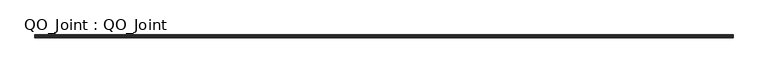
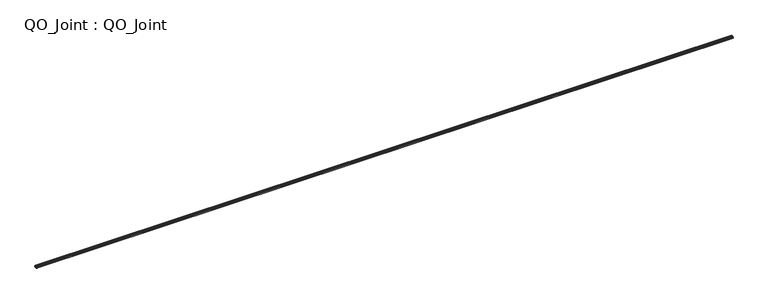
"""IFC4 building model written with IfcOpenShell, lengths in millimetres: beam geometry, QO_Joint : QO_Joint."""

from ifc_helpers import new_model, si_unit, point, frame, frame_2d, origin, place, context, project, spatial, polyline, circle_curve, trimmed, segment, composite_curve, outline, extrude, source, transform, mapped, element, save


def qo_joint_qo_joint_747832e5(model_context):
    return source(origin(), model_context, "Body", "SweptSolid", [
        extrude(outline(composite_curve([segment(polyline([(0.6475876, 34.6160805), (0.6475876, 25.5027713), (8.3158634, 25.5027713), (9.8478388, 24.5783623)]), True, "CONTINUOUS"), segment(trimmed(circle_curve(frame_2d((9.6876801, 24.3129396)), 0.31), [point((9.8478388, 24.5783623))], [point((9.6876801, 24.0029396))], False, "CARTESIAN"), True, "CONTINUOUS"), segment(polyline([(9.6876801, 24.0029396), (-9.6923428, 24.0029396)]), True, "CONTINUOUS"), segment(trimmed(circle_curve(frame_2d((-9.6923428, 24.3129396)), 0.31), [point((-9.6923428, 24.0029396))], [point((-9.8525015, 24.5783623))], False, "CARTESIAN"), True, "CONTINUOUS"), segment(polyline([(-9.8525015, 24.5783623), (-8.3205261, 25.5027713), (-0.6524124, 25.5027713), (-0.6524124, 34.6160805), (-2.1674381, 34.6160805), (-0.3546092, 35.9759407), (-0.3546092, 36.7759407), (-2.3561345, 36.7759407), (-2.3561345, 34.317153), (-1.2879019, 34.317153), (-1.2879019, 26.5392087)]), True, "CONTINUOUS"), segment(trimmed(circle_curve(frame_2d((-1.7872786, 26.5150144)), 0.4999625), [point((-1.2879019, 26.5392087))], [point((-1.7872786, 26.0150519))], False, "CARTESIAN"), True, "CONTINUOUS"), segment(polyline([(-1.7872786, 26.0150519), (-12.5010847, 26.0150519), (-12.5010847, 36.190378)]), True, "CONTINUOUS"), segment(trimmed(circle_curve(frame_2d((-11.9010847, 36.190378)), 0.6), [point((-12.5010847, 36.190378))], [point((-11.9010847, 36.790378))], False, "CARTESIAN"), True, "CONTINUOUS"), segment(polyline([(-11.9010847, 36.790378), (-6.362561, 36.790378), (-6.362561, 39.6058207), (-8.961162, 39.6058207), (-7.4224126, 43.8493822), (-4.3991903, 40.3004498), (4.3943655, 40.3004498), (7.4175879, 43.8493822), (8.9563372, 39.6058207), (6.3577362, 39.6058207), (6.3577362, 36.790378), (11.8962599, 36.790378)]), True, "CONTINUOUS"), segment(trimmed(circle_curve(frame_2d((11.8962599, 36.190378)), 0.6), [point((11.8962599, 36.790378))], [point((12.4962599, 36.190378))], False, "CARTESIAN"), True, "CONTINUOUS"), segment(polyline([(12.4962599, 36.190378), (12.4962599, 26.0150519), (1.7824538, 26.0150519)]), True, "CONTINUOUS"), segment(trimmed(circle_curve(frame_2d((1.7824538, 26.5150144)), 0.4999625), [point((1.7824538, 26.0150519))], [point((1.2830771, 26.5392087))], False, "CARTESIAN"), True, "CONTINUOUS"), segment(polyline([(1.2830771, 26.5392087), (1.2830771, 34.317153), (2.3513097, 34.317153), (2.3513097, 36.7759407), (0.3497844, 36.7759407), (0.3497844, 35.9759407), (2.1626133, 34.6160805), (0.6475876, 34.6160805)]), True, "CONTINUOUS")], self_intersect=False)), frame((-488.4999994, 0.0, 0.0), z_axis=(1.0, 0.0, 0.0), x_axis=(0.0, 1.0, 0.0)), (0.0, 0.0, 1.0), 6479.99706),
    ])


if __name__ == "__main__":
    model = new_model("IFC4")
    model_context = context("Model", 3, world=origin())
    ifc_project = project(units=[si_unit("LENGTHUNIT", "METRE", prefix="MILLI")], contexts=[model_context])
    site = spatial("IfcSite", under=ifc_project)
    building = spatial("IfcBuilding", under=site)
    placement = place(None, origin())
    qo_joint_qo_joint_shape = qo_joint_qo_joint_747832e5(model_context)
    element("IfcBeam", 1, ObjectType="QO_Joint : QO_Joint", at=placement, inside=building, context=model_context, shape_type="MappedRepresentation", body=[
        mapped(qo_joint_qo_joint_shape, transform((0.0, 0.0, 0.0), x_axis=(1.0, 0.0, 0.0), y_axis=(0.0, 1.0, 0.0), z_axis=(0.0, 0.0, 1.0))),
    ])
    save(model, "model.ifc")
